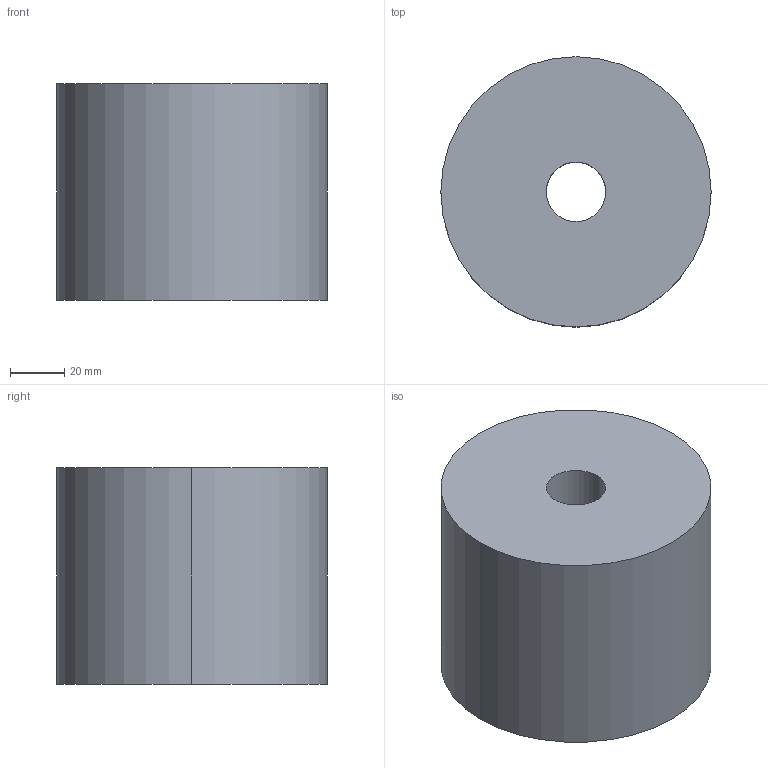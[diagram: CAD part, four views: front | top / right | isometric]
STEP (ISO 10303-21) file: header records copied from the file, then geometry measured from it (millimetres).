
FILE_DESCRIPTION(/* description */ (''),/* implementation_level */ '2;1');
FILE_NAME(/* name */ '3d_el100-22-80_03751_r00.stp',/* time_stamp */ '2011-01-10T14:15:46+09:00',/* author */ ('MISUMI'),/* organization */ (''),/* preprocessor_version */ 'ST-DEVELOPER v11',/* originating_system */ 'UGS - NX 5.0',/* authorisation */ '');
FILE_SCHEMA (('CONFIG_CONTROL_DESIGN'));
Length unit declared in the file: millimetre
Products named in the file (1): 3d_el100-22-80_03751_r00
Bounding box: 100 x 100 x 80 mm (x, y, z)
Volume: 597907.9 mm3; surface area: 45609.6 mm2
Topology: 1 solids, 1 shells, 6 faces, 12 edges, 8 vertices
Faces by surface type: cylinder 4, plane 2
Entity records: 254 total; most frequent: DIRECTION 34, CARTESIAN_POINT 27, ORIENTED_EDGE 24, AXIS2_PLACEMENT_3D 15, EDGE_CURVE 12, EDGE_LOOP 8, VERTEX_POINT 8, CIRCLE 8
